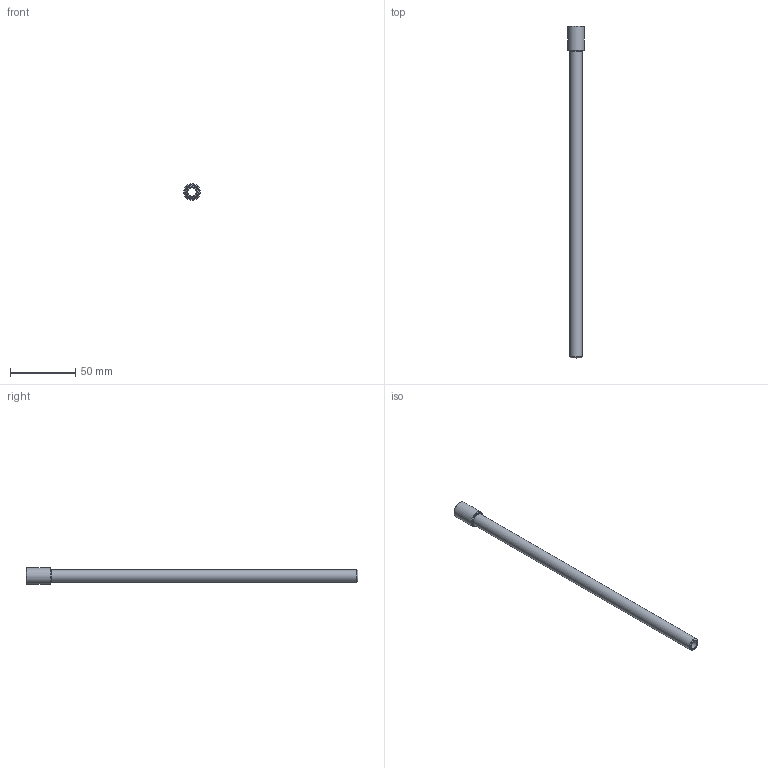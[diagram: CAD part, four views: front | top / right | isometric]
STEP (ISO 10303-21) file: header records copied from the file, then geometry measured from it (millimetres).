
FILE_DESCRIPTION(/* description */ (''),/* implementation_level */ '2;1');
FILE_NAME(/* name */ 'C:/Users/drich/Desktop/EP18X10 v1.step',/* time_stamp */ '2019-11-18T15:04:40-06:00',/* author */ (''),/* organization */ (''),/* preprocessor_version */ 'ST-DEVELOPER v18',/* originating_system */ 'Autodesk Translation Framework v8.12.0.6',/* authorisation */ '');
FILE_SCHEMA (('AUTOMOTIVE_DESIGN { 1 0 10303 214 3 1 1 }'));
Length unit declared in the file: inch
Products named in the file (2): EP18X10; EP18X4
Assembly tree (1 placements, depth 2):
  EP18X10
    EP18X4
Bounding box: 12.7 x 254 x 12.7 mm (x, y, z)
Volume: 11086.9 mm3; surface area: 13171.5 mm2
Topology: 1 solids, 1 shells, 23 faces, 55 edges, 37 vertices
Faces by surface type: plane 11, cone 7, cylinder 5
Full cylindrical faces by diameter (mm): 6.35 x1, 7.62 x1, 8.707 x1, 9.621 x1, 12.7 x1
Entity records: 740 total; most frequent: CARTESIAN_POINT 132, DIRECTION 124, ORIENTED_EDGE 110, EDGE_CURVE 55, AXIS2_PLACEMENT_3D 50, VERTEX_POINT 37, EDGE_LOOP 28, LINE 24
